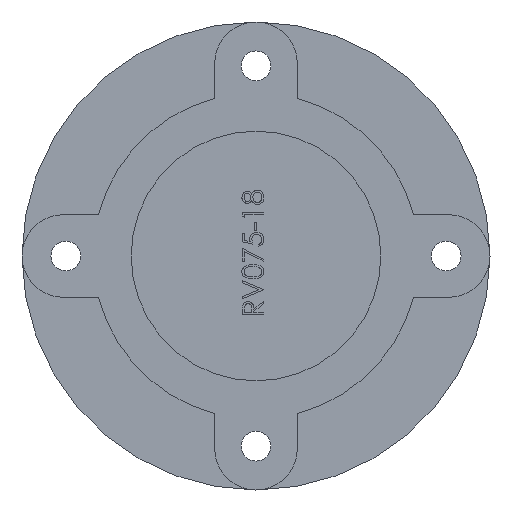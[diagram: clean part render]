
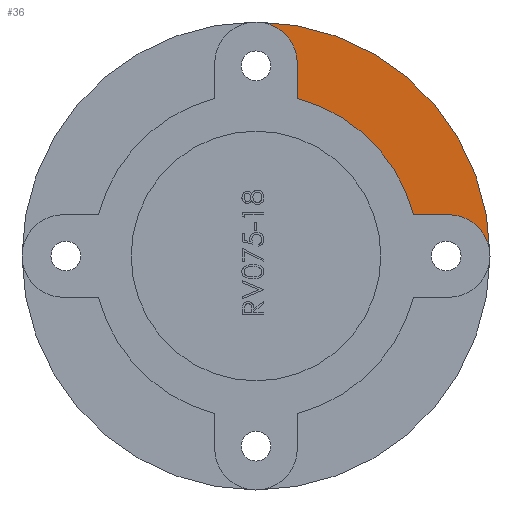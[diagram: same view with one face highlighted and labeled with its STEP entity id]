
A CAD part, left-side view. The second image highlights one B-rep face of the part: STEP entity #36.
In plain terms, the highlighted planar face has unit normal (-1, 0, 0).
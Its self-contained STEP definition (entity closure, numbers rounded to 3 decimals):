
#36 = ADVANCED_FACE ( 'NONE', ( #4178 ), #3851, .F. ) ;
#598 = ORIENTED_EDGE ( 'NONE', *, *, #5736, .F. ) ;
#599 = ORIENTED_EDGE ( 'NONE', *, *, #5737, .F. ) ;
#600 = ORIENTED_EDGE ( 'NONE', *, *, #5735, .F. ) ;
#601 = ORIENTED_EDGE ( 'NONE', *, *, #5738, .F. ) ;
#602 = ORIENTED_EDGE ( 'NONE', *, *, #5739, .T. ) ;
#603 = ORIENTED_EDGE ( 'NONE', *, *, #5740, .F. ) ;
#928 = EDGE_LOOP ( 'NONE', ( #598, #600, #599, #601, #602, #603 ) ) ;
#1191 = VERTEX_POINT ( 'NONE', #5061 ) ;
#1208 = VERTEX_POINT ( 'NONE', #5044 ) ;
#1213 = VERTEX_POINT ( 'NONE', #5039 ) ;
#1215 = VERTEX_POINT ( 'NONE', #5037 ) ;
#1219 = VERTEX_POINT ( 'NONE', #5033 ) ;
#1221 = VERTEX_POINT ( 'NONE', #5031 ) ;
#1419 = DIRECTION ( 'NONE',  ( 0., -1., 0. ) ) ;
#1420 = DIRECTION ( 'NONE',  ( -1., 0., 0. ) ) ;
#1421 = CARTESIAN_POINT ( 'NONE',  ( 16.2, 0., 58.25 ) ) ;
#1422 = DIRECTION ( 'NONE',  ( 0., 0., 1. ) ) ;
#1423 = DIRECTION ( 'NONE',  ( -1., 0., 0. ) ) ;
#1424 = CARTESIAN_POINT ( 'NONE',  ( 16.2, 0., 0. ) ) ;
#1425 = DIRECTION ( 'NONE',  ( 0., 0., -1. ) ) ;
#1426 = DIRECTION ( 'NONE',  ( -1., 0., 0. ) ) ;
#1427 = DIRECTION ( 'NONE',  ( 0., 1., 0. ) ) ;
#1428 = CARTESIAN_POINT ( 'NONE',  ( 16.2, -58.25, 12.5 ) ) ;
#1429 = LINE ( 'NONE', #1428, #5794 ) ;
#1430 = DIRECTION ( 'NONE',  ( 0., 0., 1. ) ) ;
#1431 = CARTESIAN_POINT ( 'NONE',  ( 16.2, -12.5, 58.25 ) ) ;
#1432 = LINE ( 'NONE', #1431, #5792 ) ;
#1433 = CARTESIAN_POINT ( 'NONE',  ( 16.2, -58.25, 0. ) ) ;
#1434 = DIRECTION ( 'NONE',  ( 0., 0., 1. ) ) ;
#1435 = DIRECTION ( 'NONE',  ( -1., 0., 0. ) ) ;
#1472 = CARTESIAN_POINT ( 'NONE',  ( 16.2, 0., 0. ) ) ;
#3848 = DIRECTION ( 'NONE',  ( 0., 0., -1. ) ) ;
#3849 = DIRECTION ( 'NONE',  ( 1., 0., 0. ) ) ;
#3850 = CARTESIAN_POINT ( 'NONE',  ( 16.2, 49.25, 0. ) ) ;
#3851 = PLANE ( 'NONE',  #4180 ) ;
#4178 = FACE_OUTER_BOUND ( 'NONE', #928, .T. ) ;
#4180 = AXIS2_PLACEMENT_3D ( 'NONE', #3850, #3849, #3848 ) ;
#5031 = CARTESIAN_POINT ( 'NONE',  ( 16.2, -47.637, 12.5 ) ) ;
#5033 = CARTESIAN_POINT ( 'NONE',  ( 16.2, -70.75, 0. ) ) ;
#5037 = CARTESIAN_POINT ( 'NONE',  ( 16.2, -12.5, 58.25 ) ) ;
#5039 = CARTESIAN_POINT ( 'NONE',  ( 16.2, -58.25, 12.5 ) ) ;
#5044 = CARTESIAN_POINT ( 'NONE',  ( 16.2, 0., 70.75 ) ) ;
#5061 = CARTESIAN_POINT ( 'NONE',  ( 16.2, -12.5, 47.637 ) ) ;
#5422 = CIRCLE ( 'NONE', #5796, 12.5 ) ;
#5423 = CIRCLE ( 'NONE', #5789, 70.75 ) ;
#5424 = CIRCLE ( 'NONE', #5791, 12.5 ) ;
#5425 = CIRCLE ( 'NONE', #5781, 49.25 ) ;
#5735 = EDGE_CURVE ( 'NONE', #1221, #1191, #5425, .T. ) ;
#5736 = EDGE_CURVE ( 'NONE', #1191, #1215, #1432, .T. ) ;
#5737 = EDGE_CURVE ( 'NONE', #1213, #1221, #1429, .T. ) ;
#5738 = EDGE_CURVE ( 'NONE', #1219, #1213, #5424, .T. ) ;
#5739 = EDGE_CURVE ( 'NONE', #1219, #1208, #5423, .T. ) ;
#5740 = EDGE_CURVE ( 'NONE', #1215, #1208, #5422, .T. ) ;
#5781 = AXIS2_PLACEMENT_3D ( 'NONE', #1472, #1435, #1434 ) ;
#5789 = AXIS2_PLACEMENT_3D ( 'NONE', #1424, #1423, #1422 ) ;
#5791 = AXIS2_PLACEMENT_3D ( 'NONE', #1433, #1426, #1425 ) ;
#5792 = VECTOR ( 'NONE', #1430, 1000. ) ;
#5794 = VECTOR ( 'NONE', #1427, 1000. ) ;
#5796 = AXIS2_PLACEMENT_3D ( 'NONE', #1421, #1420, #1419 ) ;
